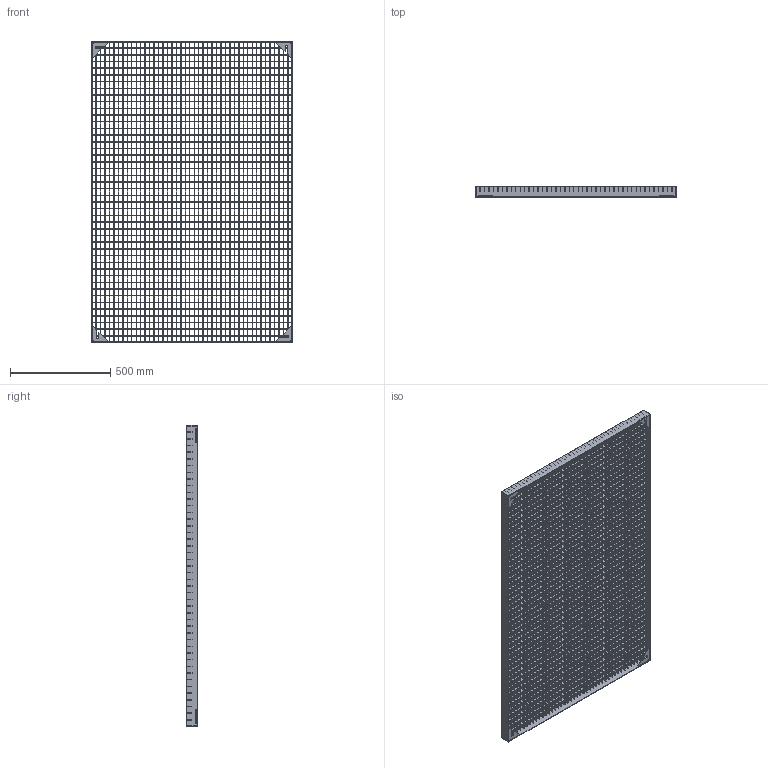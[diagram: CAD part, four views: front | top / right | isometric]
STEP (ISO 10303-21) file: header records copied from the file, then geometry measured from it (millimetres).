
FILE_DESCRIPTION (( 'STEP AP203' ), '1' );
FILE_NAME ('11012115G_Trinrist_1000x1500_20x30_25x2_mm_.STEP', '2015-01-05T07:27:41', ( '' ), ( '' ), 'SwSTEP 2.0', 'SolidWorks 2013', '' );
FILE_SCHEMA (( 'CONFIG_CONTROL_DESIGN' ));
Length unit declared in the file: millimetre
Products named in the file (6): 11012115G_Hjoernebeslag_80x80x3_mm_; 11012115G_Ribbe_25x2x994_mm_; 11012115G_Trinrist_1000x1500_20x30_25x2_mm_; 11012115G_Tvaerstav_25x2x994_mm_; 11012115G_Kantstaal_50x3x994_mm_; 11012115G_Kantstaal_50x3x1500_mm_
Assembly tree (96 placements, depth 2):
  11012115G_Trinrist_1000x1500_20x30_25x2_mm_
    11012115G_Ribbe_25x2x994_mm_  x44
    11012115G_Tvaerstav_25x2x994_mm_  x44
    11012115G_Kantstaal_50x3x994_mm_  x2
    11012115G_Kantstaal_50x3x1500_mm_  x2
    11012115G_Hjoernebeslag_80x80x3_mm_  x4
Bounding box: 1000 x 50 x 1500 mm (x, y, z)
Volume: 6062224.9 mm3; surface area: 6477006.2 mm2
Topology: 96 solids, 96 shells, 16080 faces, 47664 edges, 31776 vertices
Faces by surface type: plane 16080
Entity records: 16056 total; most frequent: CARTESIAN_POINT 2365, ORIENTED_EDGE 2256, DIRECTION 2098, EDGE_CURVE 1128, VECTOR 1128, LINE 1128, VERTEX_POINT 752, AXIS2_PLACEMENT_3D 485
